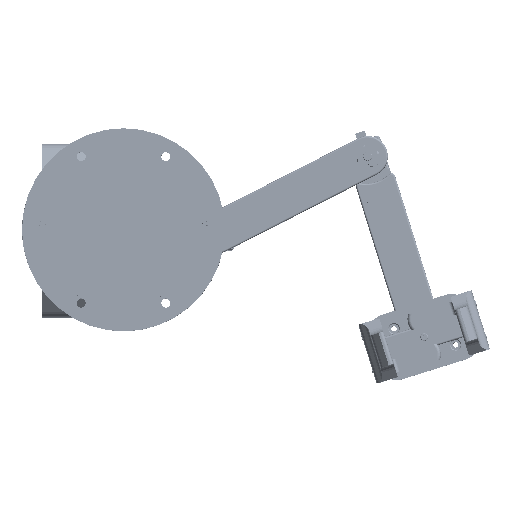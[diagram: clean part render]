
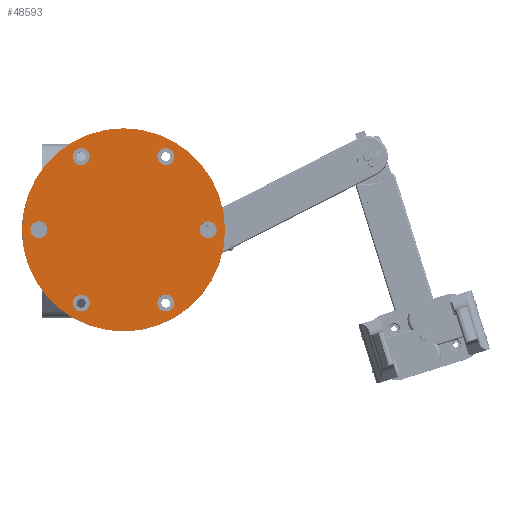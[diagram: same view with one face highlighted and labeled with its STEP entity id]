
A CAD part, top view. The second image highlights one B-rep face of the part: STEP entity #48593.
In plain terms, the highlighted planar face has unit normal (0, 0, 1).
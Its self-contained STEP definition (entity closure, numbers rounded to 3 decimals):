
#2680=FACE_BOUND('',#8426,.T.);
#2681=FACE_BOUND('',#8427,.T.);
#2682=FACE_BOUND('',#8428,.T.);
#2683=FACE_BOUND('',#8429,.T.);
#2684=FACE_BOUND('',#8430,.T.);
#2685=FACE_BOUND('',#8431,.T.);
#3664=PLANE('',#53398);
#5531=FACE_OUTER_BOUND('',#8425,.T.);
#8425=EDGE_LOOP('',(#37867));
#8426=EDGE_LOOP('',(#37868));
#8427=EDGE_LOOP('',(#37869));
#8428=EDGE_LOOP('',(#37870));
#8429=EDGE_LOOP('',(#37871));
#8430=EDGE_LOOP('',(#37872));
#8431=EDGE_LOOP('',(#37873));
#19819=CIRCLE('',#53357,5.);
#19823=CIRCLE('',#53364,5.);
#19827=CIRCLE('',#53371,5.);
#19831=CIRCLE('',#53378,5.);
#19835=CIRCLE('',#53385,5.);
#19839=CIRCLE('',#53392,5.);
#19841=CIRCLE('',#53396,60.);
#22504=VERTEX_POINT('',#74712);
#22508=VERTEX_POINT('',#74725);
#22512=VERTEX_POINT('',#74738);
#22516=VERTEX_POINT('',#74751);
#22520=VERTEX_POINT('',#74764);
#22524=VERTEX_POINT('',#74777);
#22526=VERTEX_POINT('',#74785);
#28150=EDGE_CURVE('',#22504,#22504,#19819,.T.);
#28156=EDGE_CURVE('',#22508,#22508,#19823,.T.);
#28162=EDGE_CURVE('',#22512,#22512,#19827,.T.);
#28168=EDGE_CURVE('',#22516,#22516,#19831,.T.);
#28174=EDGE_CURVE('',#22520,#22520,#19835,.T.);
#28180=EDGE_CURVE('',#22524,#22524,#19839,.T.);
#28183=EDGE_CURVE('',#22526,#22526,#19841,.T.);
#37867=ORIENTED_EDGE('',*,*,#28183,.T.);
#37868=ORIENTED_EDGE('',*,*,#28150,.T.);
#37869=ORIENTED_EDGE('',*,*,#28156,.T.);
#37870=ORIENTED_EDGE('',*,*,#28162,.T.);
#37871=ORIENTED_EDGE('',*,*,#28168,.T.);
#37872=ORIENTED_EDGE('',*,*,#28174,.T.);
#37873=ORIENTED_EDGE('',*,*,#28180,.T.);
#48593=ADVANCED_FACE('',(#5531,#2680,#2681,#2682,#2683,#2684,#2685),#3664,
 .T.);
#53357=AXIS2_PLACEMENT_3D('',#74714,#61151,#61152);
#53364=AXIS2_PLACEMENT_3D('',#74727,#61167,#61168);
#53371=AXIS2_PLACEMENT_3D('',#74740,#61183,#61184);
#53378=AXIS2_PLACEMENT_3D('',#74753,#61199,#61200);
#53385=AXIS2_PLACEMENT_3D('',#74766,#61215,#61216);
#53392=AXIS2_PLACEMENT_3D('',#74779,#61231,#61232);
#53396=AXIS2_PLACEMENT_3D('',#74786,#61240,#61241);
#53398=AXIS2_PLACEMENT_3D('',#74790,#61245,#61246);
#61151=DIRECTION('center_axis',(0.,0.,-1.));
#61152=DIRECTION('ref_axis',(1.,0.,0.));
#61167=DIRECTION('center_axis',(0.,0.,-1.));
#61168=DIRECTION('ref_axis',(1.,0.,0.));
#61183=DIRECTION('center_axis',(0.,0.,-1.));
#61184=DIRECTION('ref_axis',(1.,0.,0.));
#61199=DIRECTION('center_axis',(0.,0.,-1.));
#61200=DIRECTION('ref_axis',(1.,0.,0.));
#61215=DIRECTION('center_axis',(0.,0.,-1.));
#61216=DIRECTION('ref_axis',(1.,0.,0.));
#61231=DIRECTION('center_axis',(0.,0.,-1.));
#61232=DIRECTION('ref_axis',(1.,0.,0.));
#61240=DIRECTION('center_axis',(0.,0.,1.));
#61241=DIRECTION('ref_axis',(1.,0.,0.));
#61245=DIRECTION('center_axis',(0.,0.,1.));
#61246=DIRECTION('ref_axis',(1.,0.,0.));
#74712=CARTESIAN_POINT('',(-55.,0.,30.));
#74714=CARTESIAN_POINT('Origin',(-50.,0.,
30.));
#74725=CARTESIAN_POINT('',(-30.,43.301,30.));
#74727=CARTESIAN_POINT('Origin',(-25.,43.301,30.));
#74738=CARTESIAN_POINT('',(20.,43.301,30.));
#74740=CARTESIAN_POINT('Origin',(25.,43.301,30.));
#74751=CARTESIAN_POINT('',(45.,0.,30.));
#74753=CARTESIAN_POINT('Origin',(50.,0.,30.));
#74764=CARTESIAN_POINT('',(-30.,-43.301,30.));
#74766=CARTESIAN_POINT('Origin',(-25.,-43.301,30.));
#74777=CARTESIAN_POINT('',(20.,-43.301,30.));
#74779=CARTESIAN_POINT('Origin',(25.,-43.301,30.));
#74785=CARTESIAN_POINT('',(-60.,0.,30.));
#74786=CARTESIAN_POINT('Origin',(0.,0.,
30.));
#74790=CARTESIAN_POINT('Origin',(0.,0.,
30.));
